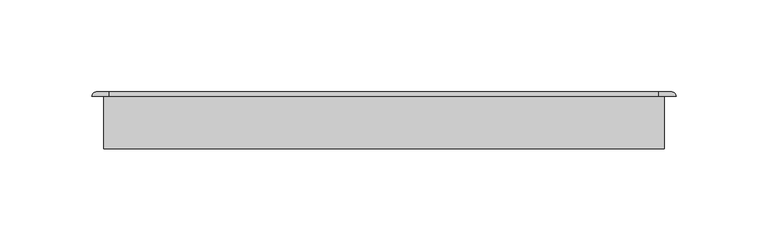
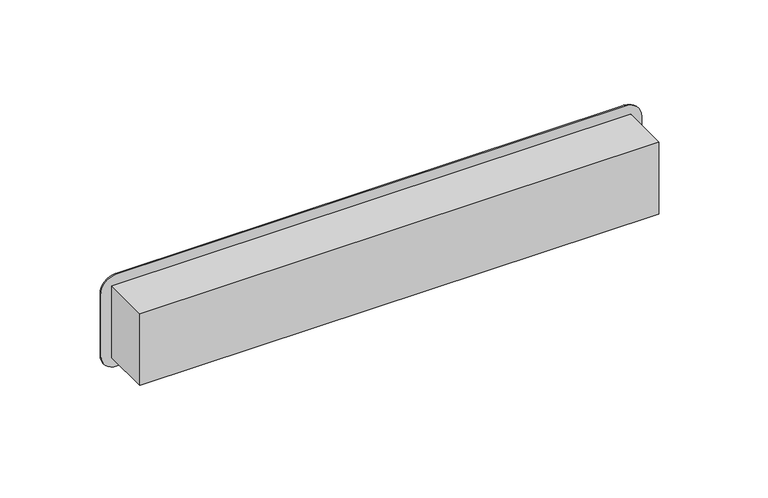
"""IFC4 building model written with IfcOpenShell, lengths in millimetres: proxy geometry, MOCKETT^CP2-12in PAPER SLOT."""

import ifcopenshell
import ifcopenshell.guid

model = None  # the IFC model being written
_history = None  # IfcOwnerHistory: only IFC2X3 demands one
_inside = {}  # id of a spatial element -> (the spatial element, [elements in it])
_under = {}  # id of a project, library or spatial element -> (it, [spatial elements below it])
_declared = {}  # id of a project -> (the project, [libraries it declares])
_typed = {}  # id of a type object -> (the type object, [elements of that type])
_made_of = {}  # id of a material, layer set ... -> (it, [elements and type objects made of it])


def new_model(schema):
    """Start an empty IFC model of exactly this schema.

    Asked for "IFC4X3", IfcOpenShell would pick the latest addendum, in which some entities
    have other attributes; the version numbers below select the first issue.
    IFC2X3 requires an IfcOwnerHistory on every rooted entity: one is made here for all.
    """
    global model, _history
    if schema == "IFC4X3":
        model = ifcopenshell.file(schema_version=(4, 3, 0, 0))
    else:
        model = ifcopenshell.file(schema=schema)
    _inside.clear()
    _under.clear()
    _declared.clear()
    _typed.clear()
    _made_of.clear()
    _history = None
    if model.schema == "IFC2X3":
        org = make("IfcOrganization", Name="unknown")
        user = make(
            "IfcPersonAndOrganization",
            ThePerson=make("IfcPerson", FamilyName="unknown"),
            TheOrganization=org,
        )
        app = make(
            "IfcApplication",
            ApplicationDeveloper=org,
            Version="unknown",
            ApplicationFullName="unknown",
            ApplicationIdentifier="unknown",
        )
        _history = make(
            "IfcOwnerHistory",
            OwningUser=user,
            OwningApplication=app,
            ChangeAction="ADDED",
            CreationDate=0,
        )
    return model


def make(cls, **values):
    """One entity of the class cls with the attributes given. An attribute that is None is left unset."""
    return model.create_entity(
        cls, **{name: value for name, value in values.items() if value is not None}
    )


def rooted(cls, **values):
    """An entity with a GlobalId (a new one), such as an element, a storey or a relation."""
    return make(cls, GlobalId=ifcopenshell.guid.new(), OwnerHistory=_history, **values)


def si_unit(unit_type, name, prefix=None):
    """IfcSIUnit, for example si_unit("LENGTHUNIT", "METRE", prefix="MILLI")."""
    return make("IfcSIUnit", UnitType=unit_type, Prefix=prefix, Name=name)


def assignment(units):
    """IfcUnitAssignment: the units of a project."""
    return None if units is None else make("IfcUnitAssignment", Units=units)


def point(xyz):
    """IfcCartesianPoint."""
    return None if xyz is None else make("IfcCartesianPoint", Coordinates=xyz)


def direction(xyz):
    """IfcDirection."""
    return None if xyz is None else make("IfcDirection", DirectionRatios=xyz)


def frame(location, z_axis=None, x_axis=None):
    """IfcAxis2Placement3D, a coordinate frame: its origin and axes. An axis left out is left unset."""
    return make(
        "IfcAxis2Placement3D",
        Location=point(location),
        Axis=direction(z_axis),
        RefDirection=direction(x_axis),
    )


def origin():
    """The frame at (0, 0, 0) with its axes left unset."""
    return frame((0.0, 0.0, 0.0))


def place(relative_to, where):
    """IfcLocalPlacement: puts the frame where relative to a parent placement (None: the world)."""
    return make(
        "IfcLocalPlacement", PlacementRelTo=relative_to, RelativePlacement=where
    )


def context(
    kind, dimensions, precision=None, world=None, true_north=None, identifier=None
):
    """IfcGeometricRepresentationContext, for example the 3D "Model" context."""
    return make(
        "IfcGeometricRepresentationContext",
        ContextIdentifier=identifier,
        ContextType=kind,
        CoordinateSpaceDimension=dimensions,
        Precision=precision,
        WorldCoordinateSystem=world,
        TrueNorth=true_north,
    )


def project(units=None, contexts=None):
    """IfcProject with its units and contexts."""
    return rooted(
        "IfcProject",
        Name="project",
        RepresentationContexts=contexts,
        UnitsInContext=assignment(units),
    )


def spatial(cls, under=None, at=None, **own):
    """A site, building, storey or space (cls), placed at a placement, below another one or the project."""
    s = rooted(cls, ObjectPlacement=at, **own)
    if under is not None:
        _under.setdefault(under.id(), (under, []))[1].append(s)
    return s


def circle_curve(where, radius):
    """IfcCircle in the frame where."""
    return make("IfcCircle", Position=where, Radius=radius)


def ellipse_curve(where, semi_axis1, semi_axis2):
    """IfcEllipse in the frame where."""
    return make(
        "IfcEllipse", Position=where, SemiAxis1=semi_axis1, SemiAxis2=semi_axis2
    )


def trimmed(basis, trim1, trim2, sense, master):
    """IfcTrimmedCurve: the piece of a basis curve between two trims."""
    return make(
        "IfcTrimmedCurve",
        BasisCurve=basis,
        Trim1=trim1,
        Trim2=trim2,
        SenseAgreement=sense,
        MasterRepresentation=master,
    )


def shape(context_of_items, identifier, shape_type, items):
    """IfcShapeRepresentation: the items that make up one representation, for example the "Body"."""
    return make(
        "IfcShapeRepresentation",
        ContextOfItems=context_of_items,
        RepresentationIdentifier=identifier,
        RepresentationType=shape_type,
        Items=items,
    )


def source(mapping_origin, context_of_items, identifier, shape_type, items):
    """IfcRepresentationMap: a shape defined once, which mapped items show again and again."""
    return make(
        "IfcRepresentationMap",
        MappingOrigin=mapping_origin,
        MappedRepresentation=shape(context_of_items, identifier, shape_type, items),
    )


def transform(
    local_origin,
    x_axis=None,
    y_axis=None,
    z_axis=None,
    scale=None,
    scale2=None,
    scale3=None,
    uniform=True,
):
    """IfcCartesianTransformationOperator3D, or its non-uniform kind. x_axis, y_axis, z_axis: its Axis1, 2, 3."""
    if uniform:
        return make(
            "IfcCartesianTransformationOperator3D",
            Axis1=direction(x_axis),
            Axis2=direction(y_axis),
            LocalOrigin=point(local_origin),
            Scale=scale,
            Axis3=direction(z_axis),
        )
    return make(
        "IfcCartesianTransformationOperator3DnonUniform",
        Axis1=direction(x_axis),
        Axis2=direction(y_axis),
        LocalOrigin=point(local_origin),
        Scale=scale,
        Axis3=direction(z_axis),
        Scale2=scale2,
        Scale3=scale3,
    )


def mapped(mapping_source, mapping_target):
    """IfcMappedItem: shows the shape of a source again, moved by a transform."""
    return make(
        "IfcMappedItem", MappingSource=mapping_source, MappingTarget=mapping_target
    )


def made_of(thing, what):
    """Note that an element or type object is made of a material, layer set ...; save() writes the relation."""
    if what is not None:
        _made_of.setdefault(what.id(), (what, []))[1].append(thing)
    return thing


def element(
    cls,
    number,
    at=None,
    inside=None,
    cuts=None,
    type_object=None,
    material=None,
    context=None,
    identifier="Body",
    shape_type=None,
    held_by="IfcProductDefinitionShape",
    body=None,
    shapes=None,
    **own,
):
    """One element of the class cls, such as IfcWall. Its Tag is "e" and its number.

    at: its placement. inside: the storey or other place that contains it. cuts: it is an
    opening in that element (IfcRelVoidsElement). A single representation is given by context,
    identifier, shape_type and body (its items); several are given by shapes. held_by: the class
    of the entity that holds the representations. save() writes the other relations.
    """
    e = rooted(cls, Tag="e%d" % number, ObjectPlacement=at, **own)
    if body is not None:
        shapes = [shape(context, identifier, shape_type, body)]
    if shapes is not None:
        e.Representation = make(held_by, Representations=shapes)
    if inside is not None:
        _inside.setdefault(inside.id(), (inside, []))[1].append(e)
    if cuts is not None:
        rooted(
            "IfcRelVoidsElement", RelatingBuildingElement=cuts, RelatedOpeningElement=e
        )
    if type_object is not None:
        _typed.setdefault(type_object.id(), (type_object, []))[1].append(e)
    return made_of(e, material)


def aggregate(whole, parts):
    """IfcRelAggregates: a whole, such as a stair, and the parts it consists of."""
    return rooted("IfcRelAggregates", RelatingObject=whole, RelatedObjects=parts)


def save(model, path):
    """Write the relations noted so far, then the file.

    IfcRelAggregates (storeys below a building ...), IfcRelContainedInSpatialStructure (elements
    in a storey), IfcRelDefinesByType, IfcRelAssociatesMaterial and IfcRelDeclares: one each for
    every whole, place, type object, material and project.
    """
    for whole, parts in _under.values():
        aggregate(whole, parts)
    for where, things in _inside.values():
        rooted(
            "IfcRelContainedInSpatialStructure",
            RelatedElements=things,
            RelatingStructure=where,
        )
    for kind, things in _typed.values():
        rooted("IfcRelDefinesByType", RelatedObjects=things, RelatingType=kind)
    for what, things in _made_of.values():
        rooted("IfcRelAssociatesMaterial", RelatedObjects=things, RelatingMaterial=what)
    for by, libraries in _declared.values():
        rooted("IfcRelDeclares", RelatingContext=by, RelatedDefinitions=libraries)
    model.write(path)


def plane_surface(at):
    """IfcPlane: the flat surface through the origin of the frame at, square to its z axis."""
    return make("IfcPlane", Position=at)


def cylinder_surface(at, radius):
    """IfcCylindricalSurface: all points at the distance radius from the z axis of the frame at."""
    return make("IfcCylindricalSurface", Position=at, Radius=radius)


def revolved_surface(curve, axis_point, axis_direction):
    """IfcSurfaceOfRevolution: the curve turned about the line through axis_point along axis_direction."""
    return make(
        "IfcSurfaceOfRevolution",
        SweptCurve=make("IfcArbitraryOpenProfileDef", ProfileType="CURVE", Curve=curve),
        AxisPosition=make("IfcAxis1Placement", Location=point(axis_point), Axis=direction(axis_direction)),
    )


def advanced_brep(points, edges, surfaces, faces):
    """IfcAdvancedBrep: a solid bounded by faces that lie on surfaces and meet in shared edges.

    An edge is (start, end): straight between two places in points (the first is 0);
    or (start, end, curve); or (start, end, curve, False) where it runs against its curve.
    A face is (place in surfaces, loops), or (place, loops, False) where it looks against
    its surface's normal. A loop lists edges by number (the first is 1), with a minus sign
    where the edge is run from its end to its start. The first loop is the outer one.
    """
    corners = [point(p) for p in points]
    vertices = [make("IfcVertexPoint", VertexGeometry=c) for c in corners]
    made = []
    for start, end, *more in edges:
        made.append(
            make(
                "IfcEdgeCurve",
                EdgeStart=vertices[start],
                EdgeEnd=vertices[end],
                EdgeGeometry=more[0] if more else make("IfcPolyline", Points=[corners[start], corners[end]]),
                SameSense=more[1] if len(more) > 1 else True,
            )
        )
    hull = []
    for where, loops, *sense in faces:
        bounds = []
        for j, loop in enumerate(loops):
            ring = [make("IfcOrientedEdge", EdgeElement=made[abs(k) - 1], Orientation=k > 0) for k in loop]
            bounds.append(
                make(
                    "IfcFaceOuterBound" if j == 0 else "IfcFaceBound",
                    Bound=make("IfcEdgeLoop", EdgeList=ring),
                    Orientation=True,
                )
            )
        hull.append(make("IfcAdvancedFace", Bounds=bounds, FaceSurface=surfaces[where], SameSense=sense[0] if sense else True))
    return make("IfcAdvancedBrep", Outer=make("IfcClosedShell", CfsFaces=hull))


def generic_models_d2be245a(model_context):
    return source(origin(), model_context, "Body", "AdvancedBrep", [
        advanced_brep(
        [(307.975, 2.38125, -2.38125), (315.11875, 2.38125, -9.525), (315.11875, 2.38125, -47.625), (307.975, 2.38125, -54.76875), (9.525, 2.38125, -54.76875), (2.38125, 2.38125, -47.625), (2.38125, 2.38125, -9.525), (9.525, 2.38125, -2.38125), (311.15, -28.575, -50.8), (311.15, -28.575, -6.35), (6.35, -28.575, -6.35), (6.35, -28.575, -50.8), (9.525, 0.0, 0.0), (0.0, 0.0, -9.525), (0.0, 0.0, -47.625), (9.525, 0.0, -57.15), (307.975, 0.0, -57.15), (317.5, 0.0, -47.625), (317.5, 0.0, -9.525), (307.975, 0.0, 0.0), (311.15, 0.0, -6.35), (311.15, 0.0, -50.8), (6.35, 0.0, -50.8), (6.35, 0.0, -6.35)],
        [
            (0, 1, circle_curve(frame((307.975, 2.38125, -9.525), z_axis=(0.0, 1.0, 0.0), x_axis=(1.0, 0.0, 0.0)), 7.14375)),
            (1, 2),
            (2, 3, circle_curve(frame((307.975, 2.38125, -47.625), z_axis=(0.0, 1.0, 0.0), x_axis=(0.0, 0.0, -1.0)), 7.14375)),
            (3, 4),
            (4, 5, circle_curve(frame((9.525, 2.38125, -47.625), z_axis=(0.0, 1.0, 0.0), x_axis=(-1.0, 0.0, 0.0)), 7.14375)),
            (5, 6),
            (6, 7, circle_curve(frame((9.525, 2.38125, -9.525), z_axis=(0.0, 1.0, 0.0), x_axis=(0.0, 0.0, 1.0)), 7.14375)),
            (7, 0),
            (8, 9),
            (9, 10),
            (10, 11),
            (11, 8),
            (12, 13, circle_curve(frame((9.525, 0.0, -9.525), z_axis=(0.0, -1.0, 0.0), x_axis=(0.0, 0.0, 1.0)), 9.525)),
            (13, 14),
            (14, 15, circle_curve(frame((9.525, 0.0, -47.625), z_axis=(0.0, -1.0, 0.0), x_axis=(-1.0, 0.0, 0.0)), 9.525)),
            (15, 16),
            (16, 17, circle_curve(frame((307.975, 0.0, -47.625), z_axis=(0.0, -1.0, 0.0), x_axis=(0.0, 0.0, -1.0)), 9.525)),
            (17, 18),
            (18, 19, circle_curve(frame((307.975, 0.0, -9.525), z_axis=(0.0, -1.0, 0.0), x_axis=(1.0, 0.0, 0.0)), 9.525)),
            (19, 12),
            (20, 21),
            (21, 22),
            (22, 23),
            (23, 20),
            (20, 9),
            (8, 21),
            (11, 22),
            (23, 10),
            (18, 1, circle_curve(frame((315.11875, 0.0, -9.525), z_axis=(0.0, 0.0, 1.0), x_axis=(1.0, 0.0, 0.0)), 2.38125)),
            (0, 19, circle_curve(frame((307.975, 0.0, -2.38125), z_axis=(1.0, 0.0, 0.0), x_axis=(0.0, 0.0, 1.0)), 2.38125)),
            (7, 12, circle_curve(frame((9.525, 0.0, -2.38125), z_axis=(1.0, 0.0, 0.0), x_axis=(0.0, 0.7071067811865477, 0.7071067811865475)), 2.38125)),
            (6, 13, circle_curve(frame((2.38125, 0.0, -9.525), z_axis=(0.0, 0.0, 1.0), x_axis=(-1.0, 0.0, 0.0)), 2.38125)),
            (5, 14, circle_curve(frame((2.38125, 0.0, -47.625), z_axis=(0.0, 0.0, 1.0), x_axis=(-0.7071067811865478, 0.7071067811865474, 0.0)), 2.38125)),
            (4, 15, circle_curve(frame((9.525, 0.0, -54.76875), z_axis=(-1.0, 0.0, 0.0), x_axis=(0.0, 0.0, -1.0)), 2.38125)),
            (3, 16, circle_curve(frame((307.975, 0.0, -54.76875), z_axis=(-1.0, 0.0, 0.0), x_axis=(0.0, 0.7071067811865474, -0.7071067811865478)), 2.38125)),
            (2, 17, circle_curve(frame((315.11875, 0.0, -47.625), z_axis=(0.0, 0.0, -1.0), x_axis=(1.0, 0.0, 0.0)), 2.38125)),
        ],
        [
            plane_surface(frame((158.75, 2.38125, -28.575), z_axis=(0.0, 1.0, 0.0), x_axis=(0.0, 0.0, 1.0))),
            plane_surface(frame((158.75, -28.575, -28.575), z_axis=(0.0, -1.0, 0.0), x_axis=(0.0, 0.0, -1.0))),
            plane_surface(frame((158.75, 0.0, -28.575), z_axis=(0.0, -1.0, 0.0), x_axis=(0.0, 0.0, 1.0))),
            plane_surface(frame((311.15, 0.0, -47.625), z_axis=(1.0, 0.0, 0.0), x_axis=(0.0, 0.0, 1.0))),
            plane_surface(frame((9.525, 0.0, -50.8), z_axis=(0.0, 0.0, -1.0), x_axis=(1.0, 0.0, 0.0))),
            plane_surface(frame((307.975, 0.0, -6.35), z_axis=(0.0, 0.0, 1.0), x_axis=(-1.0, 0.0, 0.0))),
            plane_surface(frame((6.35, 0.0, -9.525), z_axis=(-1.0, 0.0, 0.0), x_axis=(0.0, 0.0, -1.0))),
            revolved_surface(trimmed(ellipse_curve(frame((315.11875, 0.0, -9.525), z_axis=(0.0, 0.0, -1.0), x_axis=(1.0, 0.0, 0.0)), 2.38125, 2.38125), [point((315.11875, 2.38125, -9.525))], [point((317.5, 0.0, -9.525))], True, "CARTESIAN"), (307.975, 0.0, -9.525), (0.0, -1.0, 0.0)),
            cylinder_surface(frame((79.375, 0.0, -2.38125), z_axis=(1.0, 0.0, 0.0), x_axis=(0.0, 0.7071067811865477, 0.7071067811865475)), 2.38125),
            revolved_surface(trimmed(ellipse_curve(frame((9.525, 0.0, -2.38125), z_axis=(1.0, 0.0, 0.0), x_axis=(0.0, 0.0, 1.0)), 2.38125, 2.38125), [point((9.525, 2.38125, -2.38125))], [point((9.525, 0.0, 0.0))], True, "CARTESIAN"), (9.525, 0.0, -9.525), (0.0, -1.0, 0.0)),
            cylinder_surface(frame((2.38125, 0.0, -42.8625), z_axis=(0.0, 0.0, 1.0), x_axis=(-0.7071067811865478, 0.7071067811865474, 0.0)), 2.38125),
            revolved_surface(trimmed(ellipse_curve(frame((2.38125, 0.0, -47.625), z_axis=(0.0, 0.0, 1.0), x_axis=(-1.0, 0.0, 0.0)), 2.38125, 2.38125), [point((2.38125, 2.38125, -47.625))], [point((0.0, 0.0, -47.625))], True, "CARTESIAN"), (9.525, 0.0, -47.625), (0.0, -1.0, 0.0)),
            cylinder_surface(frame((238.125, 0.0, -54.76875), z_axis=(-1.0, 0.0, 0.0), x_axis=(0.0, 0.7071067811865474, -0.7071067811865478)), 2.38125),
            revolved_surface(trimmed(ellipse_curve(frame((307.975, 0.0, -54.76875), z_axis=(-1.0, 0.0, 0.0), x_axis=(0.0, 0.0, -1.0)), 2.38125, 2.38125), [point((307.975, 2.38125, -54.76875))], [point((307.975, 0.0, -57.15))], True, "CARTESIAN"), (307.975, 0.0, -47.625), (0.0, -1.0, 0.0)),
            cylinder_surface(frame((315.11875, 0.0, -14.2875), z_axis=(0.0, 0.0, -1.0000000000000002), x_axis=(0.707106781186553, 0.7071067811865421, 0.0)), 2.38125),
        ],
        [
            (0, [[1, 2, 3, 4, 5, 6, 7, 8]]),
            (1, [[9, 10, 11, 12]]),
            (2, [[13, 14, 15, 16, 17, 18, 19, 20], [21, 22, 23, 24]]),
            (3, [[-21, 25, -9, 26]]),
            (4, [[-26, -12, 27, -22]]),
            (5, [[-24, 28, -10, -25]]),
            (6, [[-23, -27, -11, -28]]),
            (7, [[29, -1, 30, -19]]),
            (8, [[31, -20, -30, -8]]),
            (9, [[-31, -7, 32, -13]]),
            (10, [[33, -14, -32, -6]]),
            (11, [[-33, -5, 34, -15]]),
            (12, [[35, -16, -34, -4]]),
            (13, [[-35, -3, 36, -17]]),
            (14, [[-29, -18, -36, -2]]),
        ],
    ),
    ])


if __name__ == "__main__":
    model = new_model("IFC4")
    model_context = context("Model", 3, world=origin())
    ifc_project = project(units=[si_unit("LENGTHUNIT", "METRE", prefix="MILLI")], contexts=[model_context])
    site = spatial("IfcSite", under=ifc_project)
    building = spatial("IfcBuilding", under=site)
    placement = place(None, origin())
    generic_models_shape = generic_models_d2be245a(model_context)
    element("IfcBuildingElementProxy", 1, Name="MOCKETT^CP2-12in PAPER SLOT", ObjectType="MOCKETT^CP2-12in PAPER SLOT", at=placement, inside=building, context=model_context, shape_type="MappedRepresentation", body=[
        mapped(generic_models_shape, transform((0.0, 0.0, 0.0), x_axis=(1.0, 0.0, 0.0), y_axis=(0.0, 1.0, 0.0), z_axis=(0.0, 0.0, 1.0))),
    ])
    save(model, "model.ifc")
